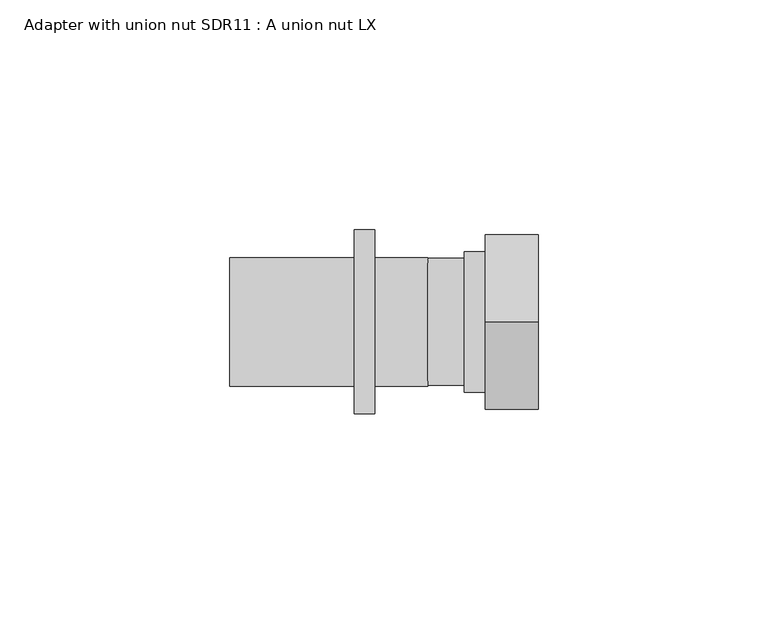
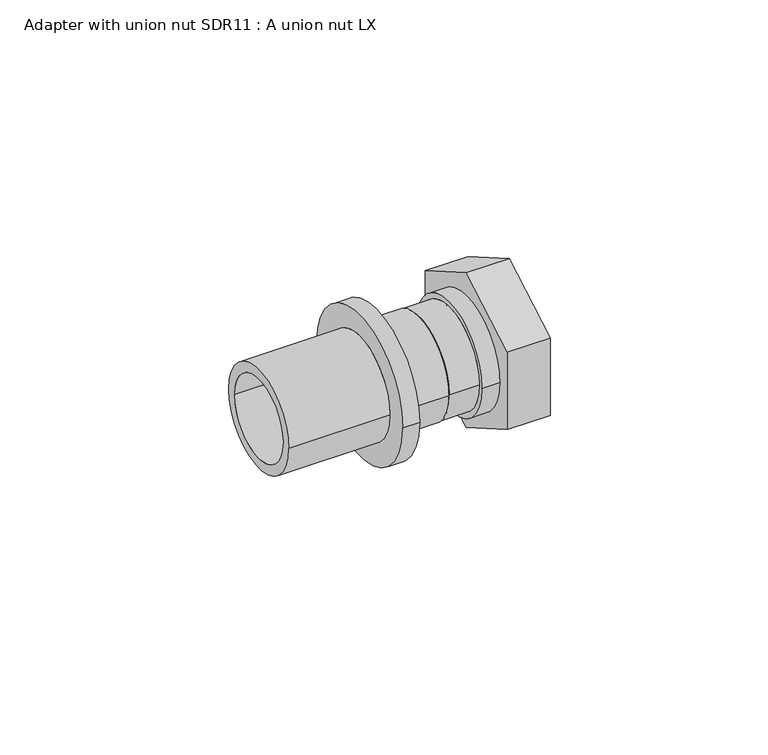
"""IFC4 building model written with IfcOpenShell, lengths in millimetres: pipe fitting geometry, Adapter with union nut SDR11 : A union nut LX."""

from ifc_helpers import new_model, si_unit, frame, origin, place, context, project, spatial, polyline, circle_curve, source, transform, mapped, element, save
from ifc_brep_helpers import plane_surface, cylinder_surface, revolved_surface, advanced_brep


def adapter_with_union_nut_sdr11_a_union_nut_lx_64a525c3(model_context):
    return source(origin(), model_context, "Body", "AdvancedBrep", [
        advanced_brep(
        [(24.0, 15.3, 0.0), (24.0, -15.3, 0.0), (8.0, -15.3, 0.0), (8.0, 15.3, 0.0), (8.0, 13.8, 0.0), (8.0, -13.8, 0.0), (0.0, -13.8, 0.0), (0.0, 13.8, 0.0), (0.0, -11.2, 0.0), (0.0, 11.2, 0.0), (11.0, 13.8, 0.0), (11.0, -13.8, 0.0), (24.0, -13.8, 0.0), (24.0, 13.8, 0.0), (11.0, 11.2, 0.0), (11.0, -11.2, 0.0)],
        [
            (0, 1, circle_curve(frame((24.0, 0.0, 0.0), z_axis=(-1.0, 0.0, 0.0), x_axis=(0.0, -1.0, 0.0)), 15.3)),
            (1, 2),
            (2, 3, circle_curve(frame((8.0, 0.0, 0.0), z_axis=(1.0, 0.0, 0.0), x_axis=(0.0, -1.0, 0.0)), 15.3)),
            (3, 0),
            (4, 5, circle_curve(frame((8.0, 0.0, 0.0), z_axis=(-1.0, 0.0, 0.0), x_axis=(0.0, -1.0, 0.0)), 13.8)),
            (5, 6),
            (6, 7, circle_curve(frame((0.0, 0.0, 0.0), z_axis=(1.0, 0.0, 0.0), x_axis=(0.0, -1.0, 0.0)), 13.8)),
            (7, 4),
            (1, 0, circle_curve(frame((24.0, 0.0, 0.0), z_axis=(-1.0, 0.0, 0.0), x_axis=(0.0, 1.0, 0.0)), 15.3)),
            (3, 2, circle_curve(frame((8.0, 0.0, 0.0), z_axis=(1.0, 0.0, 0.0), x_axis=(0.0, 1.0, 0.0)), 15.3)),
            (6, 7, circle_curve(frame((0.0, 0.0, 0.0), z_axis=(-1.0, 0.0, 0.0), x_axis=(0.0, 1.0, 0.0)), 13.8)),
            (8, 9, circle_curve(frame((0.0, 0.0, 0.0), z_axis=(1.0, 0.0, 0.0), x_axis=(0.0, -1.0, 0.0)), 11.2)),
            (9, 8, circle_curve(frame((0.0, 0.0, 0.0), z_axis=(1.0, 0.0, 0.0), x_axis=(0.0, -1.0, 0.0)), 11.2)),
            (5, 4, circle_curve(frame((8.0, 0.0, 0.0), z_axis=(-1.0, 0.0, 0.0), x_axis=(0.0, 1.0, 0.0)), 13.8)),
            (10, 11, circle_curve(frame((11.0, 0.0, 0.0), z_axis=(-1.0, 0.0, 0.0), x_axis=(0.0, -1.0, 0.0)), 13.8)),
            (11, 12),
            (12, 13, circle_curve(frame((24.0, 0.0, 0.0), z_axis=(1.0, 0.0, 0.0), x_axis=(0.0, -1.0, 0.0)), 13.8)),
            (13, 10),
            (12, 13, circle_curve(frame((24.0, 0.0, 0.0), z_axis=(-1.0, 0.0, 0.0), x_axis=(0.0, 1.0, 0.0)), 13.8)),
            (11, 10, circle_curve(frame((11.0, 0.0, 0.0), z_axis=(-1.0, 0.0, 0.0), x_axis=(0.0, 1.0, 0.0)), 13.8)),
            (14, 15, circle_curve(frame((11.0, 0.0, 0.0), z_axis=(-1.0, 0.0, 0.0), x_axis=(0.0, -1.0, 0.0)), 11.2)),
            (15, 14, circle_curve(frame((11.0, 0.0, 0.0), z_axis=(-1.0, 0.0, 0.0), x_axis=(0.0, -1.0, 0.0)), 11.2)),
            (14, 9),
            (8, 15),
        ],
        [
            cylinder_surface(frame((0.0, 0.0, 0.0), z_axis=(1.0, 0.0, 0.0), x_axis=(0.0, -1.0, 0.0)), 15.3),
            cylinder_surface(frame((0.0, 0.0, 0.0), z_axis=(1.0, 0.0, 0.0), x_axis=(0.0, -1.0, 0.0)), 13.8),
            cylinder_surface(frame((0.0, 0.0, 0.0), z_axis=(1.0, 0.0, 0.0), x_axis=(0.0, 1.0, 0.0)), 15.3),
            plane_surface(frame((0.0, 0.0, 0.0), z_axis=(-1.0, 0.0, 0.0), x_axis=(0.0, 1.0, 0.0))),
            cylinder_surface(frame((0.0, 0.0, 0.0), z_axis=(1.0, 0.0, 0.0), x_axis=(0.0, 1.0, 0.0)), 13.8),
            plane_surface(frame((8.0, 0.0, 0.0), z_axis=(-1.0, 0.0, 0.0), x_axis=(0.0, 1.0, 0.0))),
            revolved_surface(polyline([(24.0, -13.8, 0.0), (11.0, -13.8, 0.0)]), (0.0, 0.0, 0.0), (1.0, 0.0, 0.0)),
            plane_surface(frame((24.0, 0.0, 0.0), z_axis=(1.0, 0.0, 0.0), x_axis=(0.0, 1.0, 0.0))),
            revolved_surface(polyline([(24.0, 13.8, 0.0), (11.0, 13.8, 0.0)]), (0.0, 0.0, 0.0), (1.0, 0.0, 0.0)),
            plane_surface(frame((11.0, 0.0, 0.0), z_axis=(1.0, 0.0, 0.0), x_axis=(0.0, 1.0, 0.0))),
            revolved_surface(polyline([(0.0, -11.2, 0.0), (11.0, -11.2, 0.0)]), (18.25, 0.0, 0.0), (-1.0, 0.0, 0.0)),
        ],
        [
            (0, [[1, 2, 3, 4]]),
            (1, [[5, 6, 7, 8]]),
            (2, [[-2, 9, -4, 10]]),
            (3, [[-7, 11], [12, 13]]),
            (4, [[-6, 14, -8, -11]]),
            (5, [[-3, -10], [-5, -14]]),
            (6, [[15, 16, 17, 18]]),
            (7, [[-1, -9], [-17, 19]]),
            (8, [[-16, 20, -18, -19]]),
            (9, [[-15, -20], [21, 22]]),
            (10, [[23, -12, 24, -21]]),
            (10, [[-23, -22, -24, -13]]),
        ],
    ),
        advanced_brep(
        [(24.0, -19.0, -10.9696551), (12.5, -19.0, -10.9696551), (12.5, 0.0, -21.9393102), (24.0, 0.0, -21.9393102), (12.5, 19.0, -10.9696551), (24.0, 19.0, -10.9696551), (12.5, 19.0, 10.9696551), (24.0, 19.0, 10.9696551), (12.5, 0.0, 21.9393102), (24.0, 0.0, 21.9393102), (12.5, -19.0, 10.9696551), (24.0, -19.0, 10.9696551), (12.5, -11.2, 0.0), (12.5, 11.2, 0.0), (24.0, 15.3, 0.0), (24.0, -15.3, 0.0), (18.25, 15.3, 0.0), (18.25, -15.3, 0.0), (18.25, 11.2, 0.0), (18.25, -11.2, 0.0)],
        [
            (0, 1),
            (1, 2),
            (2, 3),
            (3, 0),
            (2, 4),
            (4, 5),
            (5, 3),
            (4, 6),
            (6, 7),
            (7, 5),
            (6, 8),
            (8, 9),
            (9, 7),
            (8, 10),
            (10, 11),
            (11, 9),
            (1, 10),
            (12, 13, circle_curve(frame((12.5, 0.0, 0.0), z_axis=(1.0, 0.0, 0.0), x_axis=(0.0, -1.0, 0.0)), 11.2)),
            (13, 12, circle_curve(frame((12.5, 0.0, 0.0), z_axis=(1.0, 0.0, 0.0), x_axis=(0.0, -1.0, 0.0)), 11.2)),
            (0, 11),
            (14, 15, circle_curve(frame((24.0, 0.0, 0.0), z_axis=(-1.0, 0.0, 0.0), x_axis=(0.0, -1.0, 0.0)), 15.3)),
            (15, 14, circle_curve(frame((24.0, 0.0, 0.0), z_axis=(-1.0, 0.0, 0.0), x_axis=(0.0, -1.0, 0.0)), 15.3)),
            (16, 17, circle_curve(frame((18.25, 0.0, 0.0), z_axis=(1.0, 0.0, 0.0), x_axis=(0.0, -1.0, 0.0)), 15.3)),
            (17, 16, circle_curve(frame((18.25, 0.0, 0.0), z_axis=(1.0, 0.0, 0.0), x_axis=(0.0, -1.0, 0.0)), 15.3)),
            (18, 19, circle_curve(frame((18.25, 0.0, 0.0), z_axis=(-1.0, 0.0, 0.0), x_axis=(0.0, -1.0, 0.0)), 11.2)),
            (19, 18, circle_curve(frame((18.25, 0.0, 0.0), z_axis=(-1.0, 0.0, 0.0), x_axis=(0.0, -1.0, 0.0)), 11.2)),
            (17, 15),
            (14, 16),
            (18, 13),
            (12, 19),
        ],
        [
            plane_surface(frame((12.5, -19.0, -10.9696551), z_axis=(0.0, -0.5000000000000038, -0.8660254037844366), x_axis=(0.0, 0.8660254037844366, -0.5000000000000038))),
            plane_surface(frame((12.5, 0.0, -21.9393102), z_axis=(0.0, 0.4999999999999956, -0.8660254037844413), x_axis=(0.0, 0.8660254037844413, 0.4999999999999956))),
            plane_surface(frame((12.5, 19.0, -10.9696551), z_axis=(0.0, 1.0, 0.0), x_axis=(0.0, 0.0, 1.0))),
            plane_surface(frame((12.5, 19.0, 10.9696551), z_axis=(0.0, 0.500000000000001, 0.8660254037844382), x_axis=(0.0, -0.8660254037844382, 0.500000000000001))),
            plane_surface(frame((12.5, 0.0, 21.9393102), z_axis=(0.0, -0.4999999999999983, 0.8660254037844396), x_axis=(0.0, -0.8660254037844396, -0.4999999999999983))),
            plane_surface(frame((12.5, 0.0, 0.0), z_axis=(-1.0, 0.0, 0.0), x_axis=(0.0, 0.0, -1.0))),
            plane_surface(frame((12.5, -19.0, 10.9696551), z_axis=(0.0, -1.0, 0.0), x_axis=(0.0, 0.0, -1.0))),
            plane_surface(frame((24.0, -19.0, 10.9696551), z_axis=(1.0, 0.0, 0.0), x_axis=(0.0, 0.0, -1.0))),
            plane_surface(frame((18.25, -15.3, 0.0), z_axis=(1.0, 0.0, 0.0), x_axis=(0.0, 0.0, 1.0))),
            revolved_surface(polyline([(18.25, -15.3, 0.0), (24.0, -15.3, 0.0)]), (45.0991925, 0.0, 0.0), (-1.0, 0.0, 0.0)),
            revolved_surface(polyline([(12.5, -11.2, 0.0), (18.25, -11.2, 0.0)]), (18.25, 0.0, 0.0), (-1.0, 0.0, 0.0)),
        ],
        [
            (0, [[1, 2, 3, 4]]),
            (1, [[-3, 5, 6, 7]]),
            (2, [[-6, 8, 9, 10]]),
            (3, [[-9, 11, 12, 13]]),
            (4, [[-12, 14, 15, 16]]),
            (5, [[-2, 17, -14, -11, -8, -5], [18, 19]]),
            (6, [[-1, 20, -15, -17]]),
            (7, [[-4, -7, -10, -13, -16, -20], [21, 22]]),
            (8, [[23, 24], [25, 26]]),
            (9, [[-24, 27, -21, 28]]),
            (9, [[-23, -28, -22, -27]]),
            (10, [[29, -18, 30, -25]]),
            (10, [[-29, -26, -30, -19]]),
        ],
    ),
        advanced_brep(
        [(-16.0, 13.95, 0.0), (-16.0, -13.95, 0.0), (-43.0, -13.95, 0.0), (-43.0, 13.95, 0.0), (-11.5, 20.0, 0.0), (-11.5, -20.0, 0.0), (-16.0, -20.0, 0.0), (-16.0, 20.0, 0.0), (0.0, 13.95, 0.0), (0.0, -13.95, 0.0), (-11.5, -13.95, 0.0), (-11.5, 13.95, 0.0), (-43.0, 11.2, 0.0), (-43.0, -11.2, 0.0), (-16.0, -11.2, 0.0), (0.0, -11.2, 0.0), (0.0, 11.2, 0.0), (-16.0, 11.2, 0.0)],
        [
            (0, 1, circle_curve(frame((-16.0, 0.0, 0.0), z_axis=(-1.0, 0.0, 0.0), x_axis=(0.0, -1.0, 0.0)), 13.95)),
            (1, 2),
            (2, 3, circle_curve(frame((-43.0, 0.0, 0.0), z_axis=(1.0, 0.0, 0.0), x_axis=(0.0, -1.0, 0.0)), 13.95)),
            (3, 0),
            (4, 5, circle_curve(frame((-11.5, 0.0, 0.0), z_axis=(-1.0, 0.0, 0.0), x_axis=(0.0, -1.0, 0.0)), 20.0)),
            (5, 6),
            (6, 7, circle_curve(frame((-16.0, 0.0, 0.0), z_axis=(1.0, 0.0, 0.0), x_axis=(0.0, -1.0, 0.0)), 20.0)),
            (7, 4),
            (8, 9, circle_curve(frame((0.0, 0.0, 0.0), z_axis=(-1.0, 0.0, 0.0), x_axis=(0.0, -1.0, 0.0)), 13.95)),
            (9, 10),
            (10, 11, circle_curve(frame((-11.5, 0.0, 0.0), z_axis=(1.0, 0.0, 0.0), x_axis=(0.0, -1.0, 0.0)), 13.95)),
            (11, 8),
            (12, 13, circle_curve(frame((-43.0, 0.0, 0.0), z_axis=(-1.0, 0.0, 0.0), x_axis=(0.0, -1.0, 0.0)), 11.2)),
            (13, 14),
            (14, 15),
            (15, 16, circle_curve(frame((0.0, 0.0, 0.0), z_axis=(1.0, 0.0, 0.0), x_axis=(0.0, -1.0, 0.0)), 11.2)),
            (16, 17),
            (17, 12),
            (2, 3, circle_curve(frame((-43.0, 0.0, 0.0), z_axis=(-1.0, 0.0, 0.0), x_axis=(0.0, 1.0, 0.0)), 13.95)),
            (12, 13, circle_curve(frame((-43.0, 0.0, 0.0), z_axis=(1.0, 0.0, 0.0), x_axis=(0.0, 1.0, 0.0)), 11.2)),
            (1, 0, circle_curve(frame((-16.0, 0.0, 0.0), z_axis=(-1.0, 0.0, 0.0), x_axis=(0.0, 1.0, 0.0)), 13.95)),
            (6, 7, circle_curve(frame((-16.0, 0.0, 0.0), z_axis=(-1.0, 0.0, 0.0), x_axis=(0.0, 1.0, 0.0)), 20.0)),
            (5, 4, circle_curve(frame((-11.5, 0.0, 0.0), z_axis=(-1.0, 0.0, 0.0), x_axis=(0.0, 1.0, 0.0)), 20.0)),
            (10, 11, circle_curve(frame((-11.5, 0.0, 0.0), z_axis=(-1.0, 0.0, 0.0), x_axis=(0.0, 1.0, 0.0)), 13.95)),
            (9, 8, circle_curve(frame((0.0, 0.0, 0.0), z_axis=(-1.0, 0.0, 0.0), x_axis=(0.0, 1.0, 0.0)), 13.95)),
            (15, 16, circle_curve(frame((0.0, 0.0, 0.0), z_axis=(-1.0, 0.0, 0.0), x_axis=(0.0, 1.0, 0.0)), 11.2)),
        ],
        [
            cylinder_surface(frame((0.0, 0.0, 0.0), z_axis=(1.0, 0.0, 0.0), x_axis=(0.0, -1.0, 0.0)), 13.95),
            cylinder_surface(frame((0.0, 0.0, 0.0), z_axis=(1.0, 0.0, 0.0), x_axis=(0.0, -1.0, 0.0)), 20.0),
            revolved_surface(polyline([(0.0, -11.2, 0.0), (-43.0, -11.2, 0.0)]), (0.0, 0.0, 0.0), (1.0, 0.0, 0.0)),
            plane_surface(frame((-43.0, 0.0, 0.0), z_axis=(-1.0, 0.0, 0.0), x_axis=(0.0, 1.0, 0.0))),
            cylinder_surface(frame((0.0, 0.0, 0.0), z_axis=(1.0, 0.0, 0.0), x_axis=(0.0, 1.0, 0.0)), 13.95),
            plane_surface(frame((-16.0, 0.0, 0.0), z_axis=(-1.0, 0.0, 0.0), x_axis=(0.0, 1.0, 0.0))),
            cylinder_surface(frame((0.0, 0.0, 0.0), z_axis=(1.0, 0.0, 0.0), x_axis=(0.0, 1.0, 0.0)), 20.0),
            plane_surface(frame((-11.5, 0.0, 0.0), z_axis=(1.0, 0.0, 0.0), x_axis=(0.0, 1.0, 0.0))),
            plane_surface(frame((0.0, 0.0, 0.0), z_axis=(1.0, 0.0, 0.0), x_axis=(0.0, 1.0, 0.0))),
            revolved_surface(polyline([(0.0, 11.2, 0.0), (-43.0, 11.2, 0.0)]), (0.0, 0.0, 0.0), (1.0, 0.0, 0.0)),
        ],
        [
            (0, [[1, 2, 3, 4]]),
            (1, [[5, 6, 7, 8]]),
            (0, [[9, 10, 11, 12]]),
            (2, [[13, 14, 15, 16, 17, 18]]),
            (3, [[-3, 19], [-13, 20]]),
            (4, [[-2, 21, -4, -19]]),
            (5, [[-7, 22], [-1, -21]]),
            (6, [[-6, 23, -8, -22]]),
            (7, [[-5, -23], [-11, 24]]),
            (4, [[-10, 25, -12, -24]]),
            (8, [[-9, -25], [-16, 26]]),
            (9, [[-20, -18, -17, -26, -15, -14]]),
        ],
    ),
    ])


if __name__ == "__main__":
    model = new_model("IFC4")
    model_context = context("Model", 3, world=origin())
    ifc_project = project(units=[si_unit("LENGTHUNIT", "METRE", prefix="MILLI")], contexts=[model_context])
    site = spatial("IfcSite", under=ifc_project)
    building = spatial("IfcBuilding", under=site)
    placement = place(None, origin())
    adapter_with_union_nut_sdr11_a_union_nut_lx_shape = adapter_with_union_nut_sdr11_a_union_nut_lx_64a525c3(model_context)
    element("IfcPipeFitting", 1, ObjectType="Adapter with union nut SDR11 : A union nut LX", at=placement, inside=building, context=model_context, shape_type="MappedRepresentation", body=[
        mapped(adapter_with_union_nut_sdr11_a_union_nut_lx_shape, transform((0.0, 0.0, 0.0), x_axis=(1.0, 0.0, 0.0), y_axis=(0.0, 1.0, 0.0), z_axis=(0.0, 0.0, 1.0))),
    ])
    save(model, "model.ifc")
